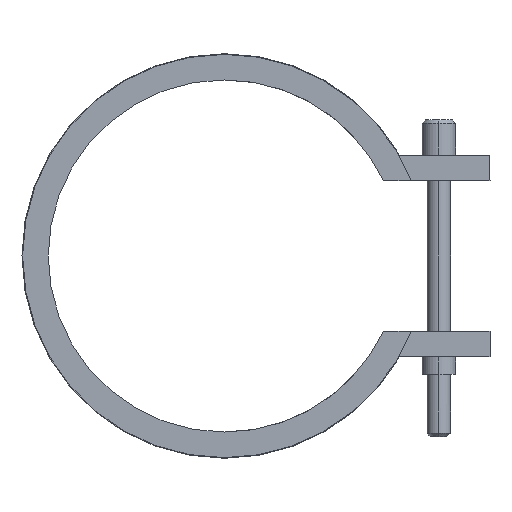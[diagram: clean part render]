
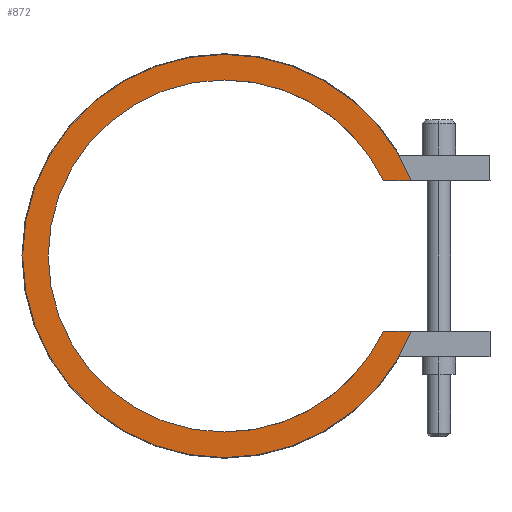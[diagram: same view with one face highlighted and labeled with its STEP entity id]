
A CAD part, left-side view. The second image highlights one B-rep face of the part: STEP entity #872.
In plain terms, the highlighted planar face has unit normal (-1, 0, 0).
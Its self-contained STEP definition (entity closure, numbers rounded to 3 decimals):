
#410=CARTESIAN_POINT('Vertex',(-20.,-24.863,-11.75)) ;
#413=CARTESIAN_POINT('Line Origine',(-20.,-27.045,-11.75)) ;
#417=CARTESIAN_POINT('Vertex',(-20.,-29.226,-11.75)) ;
#463=CARTESIAN_POINT('Vertex',(-20.,0.,-31.5)) ;
#466=CARTESIAN_POINT('Axis2P3D Location',(-20.,0.,0.)) ;
#487=CARTESIAN_POINT('Vertex',(-20.,0.,31.5)) ;
#490=CARTESIAN_POINT('Axis2P3D Location',(-20.,0.,0.)) ;
#502=CARTESIAN_POINT('Axis2P3D Location',(-20.,0.,0.)) ;
#506=CARTESIAN_POINT('Vertex',(-20.,-29.226,11.75)) ;
#526=CARTESIAN_POINT('Line Origine',(-20.,-27.045,11.75)) ;
#530=CARTESIAN_POINT('Vertex',(-20.,-24.863,11.75)) ;
#818=CARTESIAN_POINT('Axis2P3D Location',(-20.,0.,0.)) ;
#822=CARTESIAN_POINT('Vertex',(-20.,0.,-27.5)) ;
#845=CARTESIAN_POINT('Axis2P3D Location',(-20.,0.,0.)) ;
#850=CARTESIAN_POINT('Axis2P3D Location',(-20.,0.,0.)) ;
#854=CARTESIAN_POINT('Vertex',(-20.,0.,27.5)) ;
#857=CARTESIAN_POINT('Axis2P3D Location',(-20.,0.,0.)) ;
#414=DIRECTION('Vector Direction',(0.,1.,0.)) ;
#467=DIRECTION('Axis2P3D Direction',(1.,0.,-0.)) ;
#491=DIRECTION('Axis2P3D Direction',(1.,0.,-0.)) ;
#503=DIRECTION('Axis2P3D Direction',(1.,0.,-0.)) ;
#527=DIRECTION('Vector Direction',(0.,-1.,0.)) ;
#819=DIRECTION('Axis2P3D Direction',(1.,0.,-0.)) ;
#846=DIRECTION('Axis2P3D Direction',(1.,0.,0.)) ;
#847=DIRECTION('Axis2P3D XDirection',(0.,0.,-1.)) ;
#851=DIRECTION('Axis2P3D Direction',(1.,0.,0.)) ;
#858=DIRECTION('Axis2P3D Direction',(1.,0.,0.)) ;
#468=AXIS2_PLACEMENT_3D('Circle Axis2P3D',#466,#467,$) ;
#492=AXIS2_PLACEMENT_3D('Circle Axis2P3D',#490,#491,$) ;
#504=AXIS2_PLACEMENT_3D('Circle Axis2P3D',#502,#503,$) ;
#820=AXIS2_PLACEMENT_3D('Circle Axis2P3D',#818,#819,$) ;
#848=AXIS2_PLACEMENT_3D('Plane Axis2P3D',#845,#846,#847) ;
#852=AXIS2_PLACEMENT_3D('Circle Axis2P3D',#850,#851,$) ;
#859=AXIS2_PLACEMENT_3D('Circle Axis2P3D',#857,#858,$) ;
#863=ORIENTED_EDGE('',*,*,#419,.T.) ;
#864=ORIENTED_EDGE('',*,*,#824,.T.) ;
#865=ORIENTED_EDGE('',*,*,#856,.T.) ;
#866=ORIENTED_EDGE('',*,*,#861,.T.) ;
#867=ORIENTED_EDGE('',*,*,#532,.T.) ;
#868=ORIENTED_EDGE('',*,*,#508,.F.) ;
#869=ORIENTED_EDGE('',*,*,#494,.F.) ;
#870=ORIENTED_EDGE('',*,*,#470,.F.) ;
#415=VECTOR('Line Direction',#414,1.) ;
#528=VECTOR('Line Direction',#527,1.) ;
#872=ADVANCED_FACE('14055040',(#871),#849,.F.) ;
#469=CIRCLE('generated circle',#468,31.5) ;
#493=CIRCLE('generated circle',#492,31.5) ;
#505=CIRCLE('generated circle',#504,31.5) ;
#821=CIRCLE('generated circle',#820,27.5) ;
#853=CIRCLE('generated circle',#852,27.5) ;
#860=CIRCLE('generated circle',#859,27.5) ;
#419=EDGE_CURVE('',#418,#411,#416,.T.) ;
#470=EDGE_CURVE('',#418,#464,#469,.T.) ;
#494=EDGE_CURVE('',#464,#488,#493,.T.) ;
#508=EDGE_CURVE('',#488,#507,#505,.T.) ;
#532=EDGE_CURVE('',#531,#507,#529,.T.) ;
#824=EDGE_CURVE('',#411,#823,#821,.T.) ;
#856=EDGE_CURVE('',#823,#855,#853,.T.) ;
#861=EDGE_CURVE('',#855,#531,#860,.T.) ;
#862=EDGE_LOOP('',(#863,#864,#865,#866,#867,#868,#869,#870)) ;
#871=FACE_OUTER_BOUND('',#862,.T.) ;
#416=LINE('Line',#413,#415) ;
#529=LINE('Line',#526,#528) ;
#849=PLANE('Plane',#848) ;
#411=VERTEX_POINT('',#410) ;
#418=VERTEX_POINT('',#417) ;
#464=VERTEX_POINT('',#463) ;
#488=VERTEX_POINT('',#487) ;
#507=VERTEX_POINT('',#506) ;
#531=VERTEX_POINT('',#530) ;
#823=VERTEX_POINT('',#822) ;
#855=VERTEX_POINT('',#854) ;
